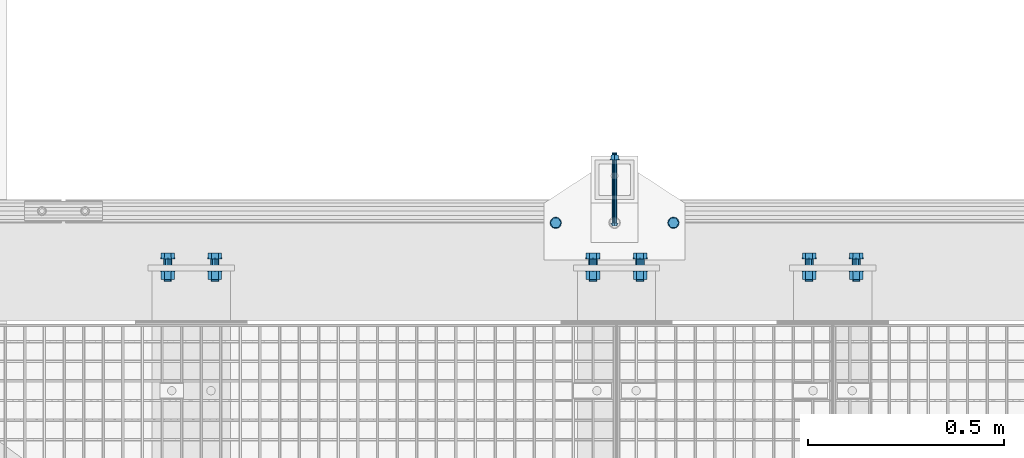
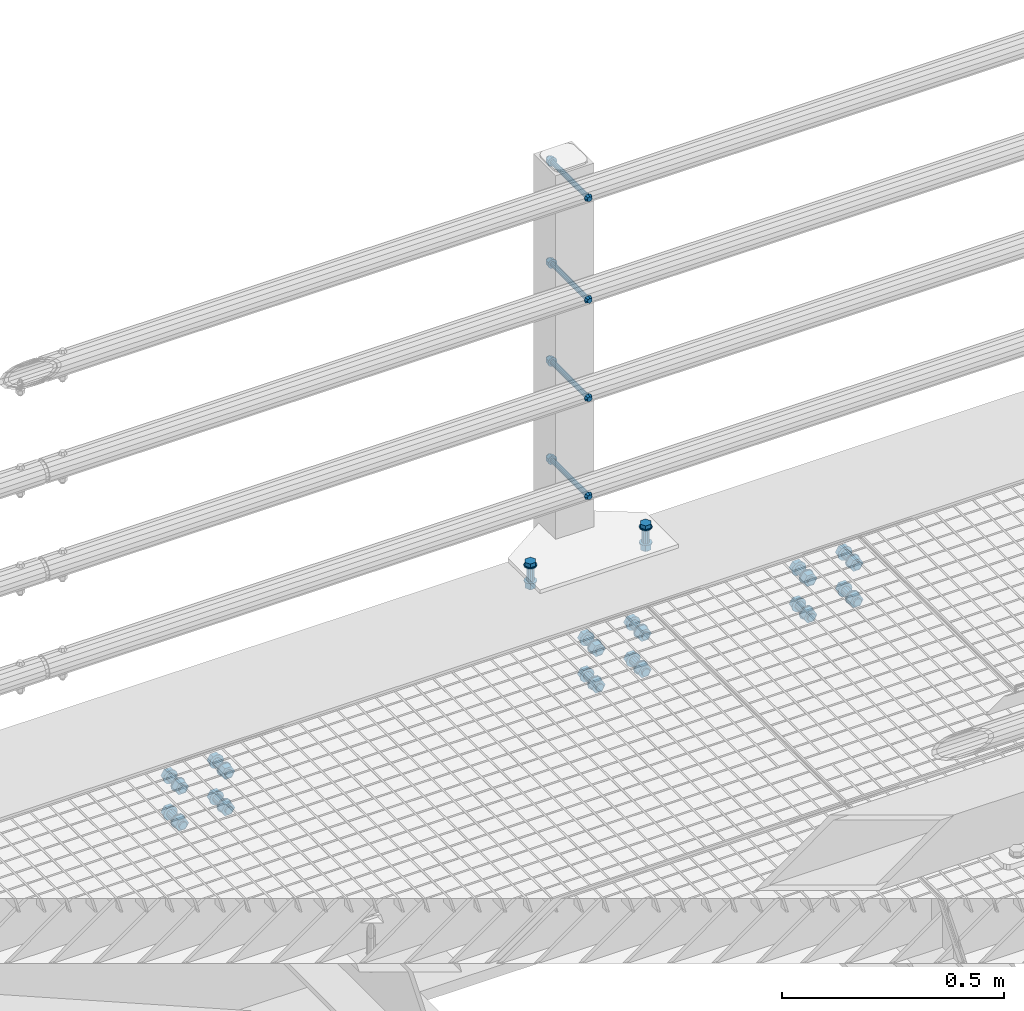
# One storey, part 37 of 1530: 8 mechanical fasteners.
"""IFC2X3 building model written with IfcOpenShell, lengths in millimetres."""

import ifcopenshell
import ifcopenshell.guid

model = None  # the IFC model being written
_history = None  # IfcOwnerHistory: only IFC2X3 demands one
_inside = {}  # id of a spatial element -> (the spatial element, [elements in it])
_under = {}  # id of a project, library or spatial element -> (it, [spatial elements below it])
_declared = {}  # id of a project -> (the project, [libraries it declares])
_typed = {}  # id of a type object -> (the type object, [elements of that type])
_made_of = {}  # id of a material, layer set ... -> (it, [elements and type objects made of it])


def new_model(schema):
    """Start an empty IFC model of exactly this schema.

    Asked for "IFC4X3", IfcOpenShell would pick the latest addendum, in which some entities
    have other attributes; the version numbers below select the first issue.
    IFC2X3 requires an IfcOwnerHistory on every rooted entity: one is made here for all.
    """
    global model, _history
    if schema == "IFC4X3":
        model = ifcopenshell.file(schema_version=(4, 3, 0, 0))
    else:
        model = ifcopenshell.file(schema=schema)
    _inside.clear()
    _under.clear()
    _declared.clear()
    _typed.clear()
    _made_of.clear()
    _history = None
    if model.schema == "IFC2X3":
        org = make("IfcOrganization", Name="unknown")
        user = make(
            "IfcPersonAndOrganization",
            ThePerson=make("IfcPerson", FamilyName="unknown"),
            TheOrganization=org,
        )
        app = make(
            "IfcApplication",
            ApplicationDeveloper=org,
            Version="unknown",
            ApplicationFullName="unknown",
            ApplicationIdentifier="unknown",
        )
        _history = make(
            "IfcOwnerHistory",
            OwningUser=user,
            OwningApplication=app,
            ChangeAction="ADDED",
            CreationDate=0,
        )
    return model


def make(cls, **values):
    """One entity of the class cls with the attributes given. An attribute that is None is left unset."""
    return model.create_entity(
        cls, **{name: value for name, value in values.items() if value is not None}
    )


def rooted(cls, **values):
    """An entity with a GlobalId (a new one), such as an element, a storey or a relation."""
    return make(cls, GlobalId=ifcopenshell.guid.new(), OwnerHistory=_history, **values)


def si_unit(unit_type, name, prefix=None):
    """IfcSIUnit, for example si_unit("LENGTHUNIT", "METRE", prefix="MILLI")."""
    return make("IfcSIUnit", UnitType=unit_type, Prefix=prefix, Name=name)


def assignment(units):
    """IfcUnitAssignment: the units of a project."""
    return None if units is None else make("IfcUnitAssignment", Units=units)


def point(xyz):
    """IfcCartesianPoint."""
    return None if xyz is None else make("IfcCartesianPoint", Coordinates=xyz)


def direction(xyz):
    """IfcDirection."""
    return None if xyz is None else make("IfcDirection", DirectionRatios=xyz)


def frame(location, z_axis=None, x_axis=None):
    """IfcAxis2Placement3D, a coordinate frame: its origin and axes. An axis left out is left unset."""
    return make(
        "IfcAxis2Placement3D",
        Location=point(location),
        Axis=direction(z_axis),
        RefDirection=direction(x_axis),
    )


def origin_with_axes():
    """The frame at (0, 0, 0) with the z axis (0, 0, 1) and the x axis (1, 0, 0) written out."""
    return frame((0.0, 0.0, 0.0), z_axis=(0.0, 0.0, 1.0), x_axis=(1.0, 0.0, 0.0))


def place(relative_to, where):
    """IfcLocalPlacement: puts the frame where relative to a parent placement (None: the world)."""
    return make(
        "IfcLocalPlacement", PlacementRelTo=relative_to, RelativePlacement=where
    )


def context(
    kind, dimensions, precision=None, world=None, true_north=None, identifier=None
):
    """IfcGeometricRepresentationContext, for example the 3D "Model" context."""
    return make(
        "IfcGeometricRepresentationContext",
        ContextIdentifier=identifier,
        ContextType=kind,
        CoordinateSpaceDimension=dimensions,
        Precision=precision,
        WorldCoordinateSystem=world,
        TrueNorth=true_north,
    )


def subcontext(parent, identifier, kind, view, scale=None):
    """IfcGeometricRepresentationSubContext, for example "Body" below "Model"."""
    return make(
        "IfcGeometricRepresentationSubContext",
        ContextIdentifier=identifier,
        ContextType=kind,
        ParentContext=parent,
        TargetScale=scale,
        TargetView=view,
    )


def project(units=None, contexts=None):
    """IfcProject with its units and contexts."""
    return rooted(
        "IfcProject",
        Name="project",
        RepresentationContexts=contexts,
        UnitsInContext=assignment(units),
    )


def spatial(cls, under=None, at=None, **own):
    """A site, building, storey or space (cls), placed at a placement, below another one or the project."""
    s = rooted(cls, ObjectPlacement=at, **own)
    if under is not None:
        _under.setdefault(under.id(), (under, []))[1].append(s)
    return s


def faces_of(points, faces, orient=None, outer=None):
    """IfcFace entities. A face is a list of loops; a loop is a list of indices into points, from 0.

    orient and outer hold one flag for each loop. By default every Orientation is true, the
    first loop of a face is its IfcFaceOuterBound and the others are IfcFaceBound.
    """
    made = []
    for i, loops in enumerate(faces):
        bounds = []
        for j, loop in enumerate(loops):
            is_outer = j == 0 if outer is None else outer[i][j]
            bounds.append(
                make(
                    "IfcFaceOuterBound" if is_outer else "IfcFaceBound",
                    Bound=make("IfcPolyLoop", Polygon=[points[k] for k in loop]),
                    Orientation=True if orient is None else orient[i][j],
                )
            )
        made.append(make("IfcFace", Bounds=bounds))
    return made


def faceted_brep(points, faces, orient=None, outer=None, voids=None):
    """IfcFacetedBrep: a solid bounded by flat faces; with voids (closed shells), ...WithVoids."""
    shared = [point(p) for p in points]
    hull = make("IfcClosedShell", CfsFaces=faces_of(shared, faces, orient, outer))
    if voids is None:
        return make("IfcFacetedBrep", Outer=hull)
    return make(
        "IfcFacetedBrepWithVoids",
        Outer=hull,
        Voids=[
            make(cls, CfsFaces=faces_of(shared, fs, o, b)) for cls, fs, o, b in voids
        ],
    )


def shape(context_of_items, identifier, shape_type, items):
    """IfcShapeRepresentation: the items that make up one representation, for example the "Body"."""
    return make(
        "IfcShapeRepresentation",
        ContextOfItems=context_of_items,
        RepresentationIdentifier=identifier,
        RepresentationType=shape_type,
        Items=items,
    )


def source(mapping_origin, context_of_items, identifier, shape_type, items):
    """IfcRepresentationMap: a shape defined once, which mapped items show again and again."""
    return make(
        "IfcRepresentationMap",
        MappingOrigin=mapping_origin,
        MappedRepresentation=shape(context_of_items, identifier, shape_type, items),
    )


def transform(
    local_origin,
    x_axis=None,
    y_axis=None,
    z_axis=None,
    scale=None,
    scale2=None,
    scale3=None,
    uniform=True,
):
    """IfcCartesianTransformationOperator3D, or its non-uniform kind. x_axis, y_axis, z_axis: its Axis1, 2, 3."""
    if uniform:
        return make(
            "IfcCartesianTransformationOperator3D",
            Axis1=direction(x_axis),
            Axis2=direction(y_axis),
            LocalOrigin=point(local_origin),
            Scale=scale,
            Axis3=direction(z_axis),
        )
    return make(
        "IfcCartesianTransformationOperator3DnonUniform",
        Axis1=direction(x_axis),
        Axis2=direction(y_axis),
        LocalOrigin=point(local_origin),
        Scale=scale,
        Axis3=direction(z_axis),
        Scale2=scale2,
        Scale3=scale3,
    )


def mapped(mapping_source, mapping_target):
    """IfcMappedItem: shows the shape of a source again, moved by a transform."""
    return make(
        "IfcMappedItem", MappingSource=mapping_source, MappingTarget=mapping_target
    )


def material(Name=None, Category=None):
    """IfcMaterial."""
    return make("IfcMaterial", Name=Name, Category=Category)


def made_of(thing, what):
    """Note that an element or type object is made of a material, layer set ...; save() writes the relation."""
    if what is not None:
        _made_of.setdefault(what.id(), (what, []))[1].append(thing)
    return thing


def type_object(cls, material=None, **own):
    """A type object (cls), such as IfcWallType, which elements share."""
    return made_of(rooted(cls, **own), material)


def element(
    cls,
    number,
    at=None,
    inside=None,
    cuts=None,
    type_object=None,
    material=None,
    context=None,
    identifier="Body",
    shape_type=None,
    held_by="IfcProductDefinitionShape",
    body=None,
    shapes=None,
    **own,
):
    """One element of the class cls, such as IfcWall. Its Tag is "e" and its number.

    at: its placement. inside: the storey or other place that contains it. cuts: it is an
    opening in that element (IfcRelVoidsElement). A single representation is given by context,
    identifier, shape_type and body (its items); several are given by shapes. held_by: the class
    of the entity that holds the representations. save() writes the other relations.
    """
    e = rooted(cls, Tag="e%d" % number, ObjectPlacement=at, **own)
    if body is not None:
        shapes = [shape(context, identifier, shape_type, body)]
    if shapes is not None:
        e.Representation = make(held_by, Representations=shapes)
    if inside is not None:
        _inside.setdefault(inside.id(), (inside, []))[1].append(e)
    if cuts is not None:
        rooted(
            "IfcRelVoidsElement", RelatingBuildingElement=cuts, RelatedOpeningElement=e
        )
    if type_object is not None:
        _typed.setdefault(type_object.id(), (type_object, []))[1].append(e)
    return made_of(e, material)


def aggregate(whole, parts):
    """IfcRelAggregates: a whole, such as a stair, and the parts it consists of."""
    return rooted("IfcRelAggregates", RelatingObject=whole, RelatedObjects=parts)


def save(model, path):
    """Write the relations noted so far, then the file.

    IfcRelAggregates (storeys below a building ...), IfcRelContainedInSpatialStructure (elements
    in a storey), IfcRelDefinesByType, IfcRelAssociatesMaterial and IfcRelDeclares: one each for
    every whole, place, type object, material and project.
    """
    for whole, parts in _under.values():
        aggregate(whole, parts)
    for where, things in _inside.values():
        rooted(
            "IfcRelContainedInSpatialStructure",
            RelatedElements=things,
            RelatingStructure=where,
        )
    for kind, things in _typed.values():
        rooted("IfcRelDefinesByType", RelatedObjects=things, RelatingType=kind)
    for what, things in _made_of.values():
        rooted("IfcRelAssociatesMaterial", RelatedObjects=things, RelatingMaterial=what)
    for by, libraries in _declared.values():
        rooted("IfcRelDeclares", RelatingContext=by, RelatedDefinitions=libraries)
    model.write(path)


model = new_model("IFC2X3")

# Units and contexts
model_context = context("Model", 3, precision=1e-05, world=origin_with_axes())
body_context = subcontext(model_context, "Body", "Model", "MODEL_VIEW")
ifc_project = project(units=[si_unit("LENGTHUNIT", "METRE", prefix="MILLI"), si_unit("AREAUNIT", "SQUARE_METRE"), si_unit("VOLUMEUNIT", "CUBIC_METRE"), si_unit("MASSUNIT", "GRAM", prefix="KILO"), si_unit("TIMEUNIT", "SECOND"), si_unit("PLANEANGLEUNIT", "RADIAN"), si_unit("SOLIDANGLEUNIT", "STERADIAN"), si_unit("THERMODYNAMICTEMPERATUREUNIT", "DEGREE_CELSIUS"), si_unit("LUMINOUSINTENSITYUNIT", "LUMEN")], contexts=[model_context])

# Site, building, storey
site_placement = place(None, origin_with_axes())
site = spatial("IfcSite", under=ifc_project, at=site_placement, Name="Brattvåg", CompositionType="ELEMENT")
building_placement = place(site_placement, origin_with_axes())
building = spatial("IfcBuilding", under=site, at=building_placement, Name="Undefined", CompositionType="ELEMENT")
storey_placement = place(building_placement, origin_with_axes())
storey = spatial("IfcBuildingStorey", under=building, at=storey_placement, Name="Undefined", CompositionType="ELEMENT", Elevation=0.0)

# Mechanical fasteners
ifc_material = material(Name="8")
mechanical_fastener_type = type_object("IfcMechanicalFastenerType", Name="Bolt assembly")
shared_shape_1 = source(origin_with_axes(), body_context, "Body", "Brep", [
    faceted_brep([(6.49435320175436, -7.49984019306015, 0.0), (4.59220118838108, -7.49984019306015, 4.59220118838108), (3.97664443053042e-16, -7.49984019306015, 6.49435320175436), (-4.59220118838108, -7.49984019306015, 4.59220118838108), (-6.49435320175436, -7.49984019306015, 7.95328886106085e-16), (-4.59220118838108, -7.49984019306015, -4.59220118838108), (-1.19299332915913e-15, -7.49984019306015, -6.49435320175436), (4.59220118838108, -7.49984019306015, -4.59220118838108), (7.34846922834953, 0.000159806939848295, -7.34846922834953), (-1.90903542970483e-15, 0.000159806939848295, -10.3923048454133), (-7.34846922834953, 0.000159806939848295, -7.34846922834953), (-10.3923048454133, 0.000159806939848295, 1.27269028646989e-15), (-7.34846922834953, 0.000159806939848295, 7.34846922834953), (6.36345143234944e-16, 0.000159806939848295, 10.3923048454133), (7.34846922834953, 0.000159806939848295, 7.34846922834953), (10.3923048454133, 0.000159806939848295, 0.0), (6.0, 0.000159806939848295, 0.0), (5.19615242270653, 0.000159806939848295, 3.00000000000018), (2.99999999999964, 0.000159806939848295, 5.19615242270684), (-6.21801588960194e-13, 0.000159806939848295, 6.0), (-3.00000000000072, 0.000159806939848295, 5.19615242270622), (-5.19615242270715, 0.000159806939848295, 2.9999999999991), (-6.0, 0.000159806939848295, -1.24360317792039e-12), (-5.19615242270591, 0.000159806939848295, -3.00000000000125), (-2.99999999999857, 0.000159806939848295, -5.19615242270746), (1.85874342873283e-12, 0.000159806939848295, -6.0), (3.00000000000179, 0.000159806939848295, -5.1961524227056), (5.19615242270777, 0.000159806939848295, -2.99999999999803), (5.19615242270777, 180.00015980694, -2.99999999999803), (3.00000000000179, 180.00015980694, -5.1961524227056), (1.85874342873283e-12, 180.00015980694, -6.0), (-2.99999999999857, 180.00015980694, -5.19615242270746), (-5.19615242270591, 180.00015980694, -3.00000000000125), (-6.0, 180.00015980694, -1.24360317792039e-12), (-5.19615242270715, 180.00015980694, 2.9999999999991), (-3.00000000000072, 180.00015980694, 5.19615242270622), (-6.21801588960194e-13, 180.00015980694, 6.0), (2.99999999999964, 180.00015980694, 5.19615242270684), (5.19615242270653, 180.00015980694, 3.00000000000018), (6.0, 180.00015980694, 0.0), (12.0, 160.299998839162, 0.0), (10.3923048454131, 160.299998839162, 6.00000000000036), (5.99999999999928, 160.299998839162, 10.3923048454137), (-1.24360317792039e-12, 160.299998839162, 12.0), (-6.00000000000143, 160.299998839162, 10.3923048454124), (-10.3923048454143, 160.299998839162, 5.99999999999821), (-12.0, 160.299998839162, -2.48720635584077e-12), (-10.3923048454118, 160.299998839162, -6.00000000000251), (-5.99999999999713, 160.299998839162, -10.3923048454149), (3.71748685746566e-12, 160.299998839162, -12.0), (6.00000000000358, 160.299998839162, -10.3923048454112), (10.3923048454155, 160.299998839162, -5.99999999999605), (10.3923048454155, 162.799998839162, -5.99999999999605), (6.00000000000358, 162.799998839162, -10.3923048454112), (3.71748685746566e-12, 162.799998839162, -12.0), (-5.99999999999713, 162.799998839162, -10.3923048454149), (-10.3923048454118, 162.799998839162, -6.00000000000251), (-12.0, 162.799998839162, -2.48720635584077e-12), (-10.3923048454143, 162.799998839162, 5.99999999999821), (-6.00000000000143, 162.799998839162, 10.3923048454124), (-1.24360317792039e-12, 162.799998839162, 12.0), (5.99999999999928, 162.799998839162, 10.3923048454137), (10.3923048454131, 162.799998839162, 6.00000000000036), (12.0, 162.799998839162, 0.0), (10.9696551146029, 162.799998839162, 0.0), (5.48482755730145, 162.799998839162, 9.5), (-5.48482755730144, 162.799998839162, 9.5), (-10.9696551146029, 162.799998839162, 1.34339530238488e-15), (-5.48482755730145, 162.799998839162, -9.5), (5.48482755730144, 162.799998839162, -9.5), (5.48482755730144, 173.599999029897, -9.5), (-5.48482755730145, 173.599999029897, -9.5), (-10.9696551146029, 173.599999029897, 1.34339530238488e-15), (-5.48482755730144, 173.599999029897, 9.5), (5.48482755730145, 173.599999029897, 9.5), (10.9696551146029, 173.599999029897, 0.0)], [[[0, 1, 2, 3, 4, 5, 6, 7]], [[8, 9, 10, 11, 12, 13, 14, 15]], [[0, 15, 14, 1]], [[1, 14, 13, 2]], [[2, 13, 12, 3]], [[3, 12, 11, 4]], [[4, 11, 10, 5]], [[5, 10, 9, 6]], [[6, 9, 8, 7]], [[7, 8, 15, 0]], [[16, 17, 18, 19, 20, 21, 22, 23, 24, 25, 26, 27]], [[28, 29, 30, 31, 32, 33, 34, 35, 36, 37, 38, 39]], [[16, 39, 38, 17]], [[17, 38, 37, 18]], [[18, 37, 36, 19]], [[19, 36, 35, 20]], [[20, 35, 34, 21]], [[21, 34, 33, 22]], [[22, 33, 32, 23]], [[23, 32, 31, 24]], [[24, 31, 30, 25]], [[25, 30, 29, 26]], [[26, 29, 28, 27]], [[27, 28, 39, 16]], [[40, 41, 42, 43, 44, 45, 46, 47, 48, 49, 50, 51]], [[52, 53, 54, 55, 56, 57, 58, 59, 60, 61, 62, 63]], [[40, 63, 62, 41]], [[41, 62, 61, 42]], [[42, 61, 60, 43]], [[43, 60, 59, 44]], [[44, 59, 58, 45]], [[45, 58, 57, 46]], [[46, 57, 56, 47]], [[47, 56, 55, 48]], [[48, 55, 54, 49]], [[49, 54, 53, 50]], [[50, 53, 52, 51]], [[51, 52, 63, 40]], [[64, 65, 66, 67, 68, 69]], [[70, 71, 72, 73, 74, 75]], [[64, 75, 74, 65]], [[65, 74, 73, 66]], [[66, 73, 72, 67]], [[67, 72, 71, 68]], [[68, 71, 70, 69]], [[69, 70, 75, 64]]]),
    faceted_brep([(6.5, 0.100159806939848, 0.0), (5.62916512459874, 0.100159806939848, 3.25000000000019), (3.24999999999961, 0.100159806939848, 5.62916512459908), (-6.7361838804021e-13, 0.100159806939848, 6.5), (-3.25000000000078, 0.100159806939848, 5.6291651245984), (-5.62916512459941, 0.100159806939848, 3.24999999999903), (-6.5, 0.100159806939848, -1.34723677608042e-12), (-5.62916512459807, 0.100159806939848, -3.25000000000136), (-3.24999999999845, 0.100159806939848, -5.62916512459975), (2.01363871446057e-12, 0.100159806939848, -6.5), (3.25000000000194, 0.100159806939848, -5.62916512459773), (5.62916512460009, 0.100159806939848, -3.24999999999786), (5.62916512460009, 60.4001552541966, -3.24999999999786), (3.25000000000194, 60.4001552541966, -5.62916512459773), (2.01363871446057e-12, 60.4001552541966, -6.5), (-3.24999999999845, 60.4001552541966, -5.62916512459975), (-5.62916512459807, 60.4001552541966, -3.25000000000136), (-6.5, 60.4001552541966, -1.34723677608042e-12), (-5.62916512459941, 60.4001552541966, 3.24999999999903), (-3.25000000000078, 60.4001552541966, 5.6291651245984), (-6.7361838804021e-13, 60.4001552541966, 6.5), (3.24999999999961, 60.4001552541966, 5.62916512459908), (5.62916512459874, 60.4001552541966, 3.25000000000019), (6.5, 60.4001552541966, 0.0), (6.5, 60.1999988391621, 0.0), (5.62916512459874, 60.1999988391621, 3.25000000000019), (3.24999999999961, 60.1999988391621, 5.62916512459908), (-6.7361838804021e-13, 60.1999988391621, 6.5), (-3.25000000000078, 60.1999988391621, 5.6291651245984), (-5.62916512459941, 60.1999988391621, 3.24999999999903), (-6.5, 60.1999988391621, -1.34723677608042e-12), (-5.62916512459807, 60.1999988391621, -3.25000000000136), (-3.24999999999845, 60.1999988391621, -5.62916512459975), (2.01363871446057e-12, 60.1999988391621, -6.5), (3.25000000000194, 60.1999988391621, -5.62916512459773), (5.62916512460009, 60.1999988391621, -3.24999999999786), (5.62916512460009, 160.299998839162, -3.24999999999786), (3.25000000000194, 160.299998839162, -5.62916512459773), (2.01363871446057e-12, 160.299998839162, -6.5), (-3.24999999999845, 160.299998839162, -5.62916512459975), (-5.62916512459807, 160.299998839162, -3.25000000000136), (-6.5, 160.299998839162, -1.34723677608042e-12), (-5.62916512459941, 160.299998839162, 3.24999999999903), (-3.25000000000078, 160.299998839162, 5.6291651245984), (-6.7361838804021e-13, 160.299998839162, 6.5), (3.24999999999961, 160.299998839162, 5.62916512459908), (5.62916512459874, 160.299998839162, 3.25000000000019), (6.5, 160.299998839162, 0.0)], [[[0, 1, 2, 3, 4, 5, 6, 7, 8, 9, 10, 11]], [[12, 13, 14, 15, 16, 17, 18, 19, 20, 21, 22, 23]], [[0, 23, 22, 1]], [[1, 22, 21, 2]], [[2, 21, 20, 3]], [[3, 20, 19, 4]], [[4, 19, 18, 5]], [[5, 18, 17, 6]], [[6, 17, 16, 7]], [[7, 16, 15, 8]], [[8, 15, 14, 9]], [[9, 14, 13, 10]], [[10, 13, 12, 11]], [[11, 12, 23, 0]], [[24, 25, 26, 27, 28, 29, 30, 31, 32, 33, 34, 35]], [[36, 37, 38, 39, 40, 41, 42, 43, 44, 45, 46, 47]], [[24, 47, 46, 25]], [[25, 46, 45, 26]], [[26, 45, 44, 27]], [[27, 44, 43, 28]], [[28, 43, 42, 29]], [[29, 42, 41, 30]], [[30, 41, 40, 31]], [[31, 40, 39, 32]], [[32, 39, 38, 33]], [[33, 38, 37, 34]], [[34, 37, 36, 35]], [[35, 36, 47, 24]]]),
])
for number, where, z_axis, x_axis, name in (
    (1, (2349.9999999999, 9099.69972268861, 149.550000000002), (1.0, 0.0, 0.0), (0.0, 0.0, -1.0), "Bolt assembly"),
    (2, (2349.9999999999, 9099.69972268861, 419.550000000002), (1.0, 0.0, 0.0), (0.0, 0.0, -1.0), "Bolt assembly"),
    (3, (2349.9999999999, 9099.69972268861, 689.550000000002), (1.0, 0.0, 0.0), (0.0, 0.0, -1.0), "Bolt assembly"),
    (4, (2349.9999999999, 9099.69972268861, 969.550000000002), (1.0, 0.0, 0.0), (0.0, 0.0, -1.0), "Bolt assembly"),
):
    element("IfcMechanicalFastener", number, at=place(storey_placement, frame(where, z_axis=z_axis, x_axis=x_axis)), inside=storey, type_object=mechanical_fastener_type, material=ifc_material, Name=name, NominalDiameter=12.0, NominalLength=180.0, context=body_context, shape_type="MappedRepresentation", body=[
        mapped(shared_shape_1, transform((0.0, 0.0, 0.0))),
    ])
shared_shape_2 = source(origin_with_axes(), body_context, "Body", "Brep", [
    faceted_brep([(13.856406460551, -13.0, 0.0), (6.92820323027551, -13.0, 12.0), (-6.92820323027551, -13.0, 12.0), (-13.856406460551, -13.0, 1.69692038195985e-15), (-6.92820323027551, -13.0, -12.0), (6.9282032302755, -13.0, -12.0), (6.9282032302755, -3.0, -12.0), (-6.92820323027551, -3.0, -12.0), (-13.856406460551, -3.0, 1.69692038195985e-15), (-6.92820323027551, -3.0, 12.0), (6.92820323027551, -3.0, 12.0), (13.856406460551, -3.0, 0.0), (8.0, -3.0, 0.0), (6.92820323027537, -3.0, 4.00000000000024), (3.99999999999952, -3.0, 6.92820323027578), (-8.29068785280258e-13, -3.0, 8.0), (-4.00000000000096, -3.0, 6.92820323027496), (-6.9282032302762, -3.0, 3.99999999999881), (-8.0, -3.0, -1.65813757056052e-12), (-6.92820323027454, -3.0, -4.00000000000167), (-3.99999999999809, -3.0, -6.92820323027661), (2.47832457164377e-12, -3.0, -8.0), (4.00000000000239, -3.0, -6.92820323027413), (6.92820323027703, -3.0, -3.99999999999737), (6.92820323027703, 62.0000000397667, -3.99999999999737), (4.00000000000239, 62.0000000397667, -6.92820323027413), (2.47832457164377e-12, 62.0000000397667, -8.0), (-3.99999999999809, 62.0000000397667, -6.92820323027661), (-6.92820323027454, 62.0000000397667, -4.00000000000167), (-8.0, 62.0000000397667, -1.65813757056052e-12), (-6.9282032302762, 62.0000000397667, 3.99999999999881), (-4.00000000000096, 62.0000000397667, 6.92820323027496), (-8.29068785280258e-13, 62.0000000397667, 8.0), (3.99999999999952, 62.0000000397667, 6.92820323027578), (6.92820323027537, 62.0000000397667, 4.00000000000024), (8.0, 62.0000000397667, 0.0), (15.0, -3.0, 0.0), (12.9903810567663, -3.0, 7.50000000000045), (7.4999999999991, -3.0, 12.9903810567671), (-1.55450397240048e-12, -3.0, 15.0), (-7.50000000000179, -3.0, 12.9903810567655), (-12.9903810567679, -3.0, 7.49999999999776), (-15.0, -3.0, -3.10900794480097e-12), (-12.9903810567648, -3.0, -7.50000000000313), (-7.49999999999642, -3.0, -12.9903810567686), (4.64685857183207e-12, -3.0, -15.0), (7.50000000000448, -3.0, -12.990381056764), (12.9903810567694, -3.0, -7.49999999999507), (12.9903810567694, 0.0, -7.49999999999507), (7.50000000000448, 0.0, -12.990381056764), (0.0, 0.0, -15.0), (-7.49999999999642, 0.0, -12.9903810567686), (-12.9903810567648, 0.0, -7.50000000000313), (-15.0, 0.0, -3.10900794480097e-12), (-12.9903810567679, 0.0, 7.49999999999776), (-7.50000000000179, 0.0, 12.9903810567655), (0.0, 0.0, 15.0), (7.4999999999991, 0.0, 12.9903810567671), (12.9903810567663, 0.0, 7.50000000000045), (15.0, 0.0, 0.0), (15.0, 39.9997390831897, 0.0), (12.9903810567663, 39.9997390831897, 7.50000000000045), (7.4999999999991, 39.9997390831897, 12.9903810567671), (-1.55450397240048e-12, 39.9997390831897, 15.0), (-7.50000000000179, 39.9997390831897, 12.9903810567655), (-12.9903810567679, 39.9997390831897, 7.49999999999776), (-15.0, 39.9997390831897, -3.10900794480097e-12), (-12.9903810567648, 39.9997390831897, -7.50000000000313), (-7.49999999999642, 39.9997390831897, -12.9903810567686), (4.64685857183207e-12, 39.9997390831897, -15.0), (7.50000000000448, 39.9997390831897, -12.990381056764), (12.9903810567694, 39.9997390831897, -7.49999999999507), (12.9903810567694, 42.9997390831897, -7.49999999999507), (7.50000000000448, 42.9997390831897, -12.990381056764), (4.64685857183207e-12, 42.9997390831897, -15.0), (-7.49999999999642, 42.9997390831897, -12.9903810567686), (-12.9903810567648, 42.9997390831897, -7.50000000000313), (-15.0, 42.9997390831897, -3.10900794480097e-12), (-12.9903810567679, 42.9997390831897, 7.49999999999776), (-7.50000000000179, 42.9997390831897, 12.9903810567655), (-1.55450397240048e-12, 42.9997390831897, 15.0), (7.4999999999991, 42.9997390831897, 12.9903810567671), (12.9903810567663, 42.9997390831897, 7.50000000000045), (15.0, 42.9997390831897, 0.0), (13.856406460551, 42.9997390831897, 0.0), (6.92820323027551, 42.9997390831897, 12.0), (-6.92820323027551, 42.9997390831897, 12.0), (-13.856406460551, 42.9997390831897, 1.69692038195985e-15), (-6.92820323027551, 42.9997390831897, -12.0), (6.9282032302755, 42.9997390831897, -12.0), (6.9282032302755, 57.7997392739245, -12.0), (-6.92820323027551, 57.7997392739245, -12.0), (-13.856406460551, 57.7997392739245, 1.69692038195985e-15), (-6.92820323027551, 57.7997392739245, 12.0), (6.92820323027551, 57.7997392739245, 12.0), (13.856406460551, 57.7997392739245, 0.0)], [[[0, 1, 2, 3, 4, 5]], [[6, 7, 8, 9, 10, 11]], [[0, 11, 10, 1]], [[1, 10, 9, 2]], [[2, 9, 8, 3]], [[3, 8, 7, 4]], [[4, 7, 6, 5]], [[5, 6, 11, 0]], [[12, 13, 14, 15, 16, 17, 18, 19, 20, 21, 22, 23]], [[24, 25, 26, 27, 28, 29, 30, 31, 32, 33, 34, 35]], [[12, 35, 34, 13]], [[13, 34, 33, 14]], [[14, 33, 32, 15]], [[15, 32, 31, 16]], [[16, 31, 30, 17]], [[17, 30, 29, 18]], [[18, 29, 28, 19]], [[19, 28, 27, 20]], [[20, 27, 26, 21]], [[21, 26, 25, 22]], [[22, 25, 24, 23]], [[23, 24, 35, 12]], [[36, 37, 38, 39, 40, 41, 42, 43, 44, 45, 46, 47]], [[48, 49, 50, 51, 52, 53, 54, 55, 56, 57, 58, 59]], [[36, 59, 58, 37]], [[37, 58, 57, 38]], [[38, 57, 56, 39]], [[39, 56, 55, 40]], [[40, 55, 54, 41]], [[41, 54, 53, 42]], [[42, 53, 52, 43]], [[43, 52, 51, 44]], [[44, 51, 50, 45]], [[45, 50, 49, 46]], [[46, 49, 48, 47]], [[47, 48, 59, 36]], [[60, 61, 62, 63, 64, 65, 66, 67, 68, 69, 70, 71]], [[72, 73, 74, 75, 76, 77, 78, 79, 80, 81, 82, 83]], [[60, 83, 82, 61]], [[61, 82, 81, 62]], [[62, 81, 80, 63]], [[63, 80, 79, 64]], [[64, 79, 78, 65]], [[65, 78, 77, 66]], [[66, 77, 76, 67]], [[67, 76, 75, 68]], [[68, 75, 74, 69]], [[69, 74, 73, 70]], [[70, 73, 72, 71]], [[71, 72, 83, 60]], [[84, 85, 86, 87, 88, 89]], [[90, 91, 92, 93, 94, 95]], [[84, 95, 94, 85]], [[85, 94, 93, 86]], [[86, 93, 92, 87]], [[87, 92, 91, 88]], [[88, 91, 90, 89]], [[89, 90, 95, 84]]]),
    faceted_brep([(9.0, 0.1, 0.0), (7.79422863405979, 0.1, 4.50000000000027), (4.49999999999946, 0.1, 7.79422863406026), (-9.3270238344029e-13, 0.1, 9.0), (-4.50000000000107, 0.1, 7.79422863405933), (-7.79422863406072, 0.1, 4.49999999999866), (-9.0, 0.1, -1.86540476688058e-12), (-7.79422863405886, 0.1, -4.50000000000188), (-4.49999999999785, 0.1, -7.79422863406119), (2.78811514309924e-12, 0.1, -9.0), (4.50000000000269, 0.1, -7.7942286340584), (7.79422863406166, 0.1, -4.49999999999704), (7.79422863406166, 10.1, -4.49999999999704), (4.50000000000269, 10.1, -7.7942286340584), (2.78811514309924e-12, 10.1, -9.0), (-4.49999999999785, 10.1, -7.79422863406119), (-7.79422863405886, 10.1, -4.50000000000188), (-9.0, 10.1, -1.86540476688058e-12), (-7.79422863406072, 10.1, 4.49999999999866), (-4.50000000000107, 10.1, 7.79422863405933), (-9.3270238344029e-13, 10.1, 9.0), (4.49999999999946, 10.1, 7.79422863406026), (7.79422863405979, 10.1, 4.50000000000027), (9.0, 10.1, 0.0), (9.0, 9.8997390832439, 0.0), (7.79422863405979, 9.8997390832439, 4.50000000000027), (4.49999999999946, 9.8997390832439, 7.79422863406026), (-9.3270238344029e-13, 9.8997390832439, 9.0), (-4.50000000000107, 9.8997390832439, 7.79422863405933), (-7.79422863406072, 9.8997390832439, 4.49999999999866), (-9.0, 9.8997390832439, -1.86540476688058e-12), (-7.79422863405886, 9.8997390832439, -4.50000000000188), (-4.49999999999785, 9.8997390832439, -7.79422863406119), (2.78811514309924e-12, 9.8997390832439, -9.0), (4.50000000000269, 9.8997390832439, -7.7942286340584), (7.79422863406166, 9.8997390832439, -4.49999999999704), (7.79422863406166, 39.9997390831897, -4.49999999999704), (4.50000000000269, 39.9997390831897, -7.7942286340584), (2.78811514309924e-12, 39.9997390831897, -9.0), (-4.49999999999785, 39.9997390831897, -7.79422863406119), (-7.79422863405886, 39.9997390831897, -4.50000000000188), (-9.0, 39.9997390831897, -1.86540476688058e-12), (-7.79422863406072, 39.9997390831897, 4.49999999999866), (-4.50000000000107, 39.9997390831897, 7.79422863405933), (-9.3270238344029e-13, 39.9997390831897, 9.0), (4.49999999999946, 39.9997390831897, 7.79422863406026), (7.79422863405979, 39.9997390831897, 4.50000000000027), (9.0, 39.9997390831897, 0.0)], [[[0, 1, 2, 3, 4, 5, 6, 7, 8, 9, 10, 11]], [[12, 13, 14, 15, 16, 17, 18, 19, 20, 21, 22, 23]], [[0, 23, 22, 1]], [[1, 22, 21, 2]], [[2, 21, 20, 3]], [[3, 20, 19, 4]], [[4, 19, 18, 5]], [[5, 18, 17, 6]], [[6, 17, 16, 7]], [[7, 16, 15, 8]], [[8, 15, 14, 9]], [[9, 14, 13, 10]], [[10, 13, 12, 11]], [[11, 12, 23, 0]], [[24, 25, 26, 27, 28, 29, 30, 31, 32, 33, 34, 35]], [[36, 37, 38, 39, 40, 41, 42, 43, 44, 45, 46, 47]], [[24, 47, 46, 25]], [[25, 46, 45, 26]], [[26, 45, 44, 27]], [[27, 44, 43, 28]], [[28, 43, 42, 29]], [[29, 42, 41, 30]], [[30, 41, 40, 31]], [[31, 40, 39, 32]], [[32, 39, 38, 33]], [[33, 38, 37, 34]], [[34, 37, 36, 35]], [[35, 36, 47, 24]]]),
])
mechanical_fastener_placement = place(storey_placement, frame((2200.00080864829, 9099.99960715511, 9.99973908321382), z_axis=(0.0, 1.0, 0.0), x_axis=(1.0, 0.0, 0.0)))
element("IfcMechanicalFastener", 5, at=mechanical_fastener_placement, inside=storey, type_object=mechanical_fastener_type, material=ifc_material, Name="Bolt assembly", NominalDiameter=16.0, NominalLength=65.0, context=body_context, shape_type="MappedRepresentation", body=[
    mapped(shared_shape_2, transform((0.0, 0.0, 0.0))),
    mapped(shared_shape_2, transform((300.0, 0.0, 0.0))),
])
shared_shape_3 = source(origin_with_axes(), body_context, "Body", "Brep", [
    faceted_brep([(17.3205080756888, -31.4985046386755, 0.0), (8.66025403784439, -31.4985046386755, 15.0), (-8.66025403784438, -31.4985046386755, 15.0), (-17.3205080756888, -31.4985046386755, 2.12115047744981e-15), (-8.66025403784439, -31.4985046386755, -15.0), (8.66025403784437, -31.4985046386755, -15.0), (8.66025403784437, -18.9985046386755, -15.0), (-8.66025403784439, -18.9985046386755, -15.0), (-17.3205080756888, -18.9985046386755, 2.12115047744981e-15), (-8.66025403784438, -18.9985046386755, 15.0), (8.66025403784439, -18.9985046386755, 15.0), (17.3205080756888, -18.9985046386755, 0.0), (10.0, -18.9985046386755, 0.0), (8.66025403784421, -18.9985046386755, 5.0000000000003), (4.9999999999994, -18.9985046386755, 8.66025403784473), (-1.03633598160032e-12, -18.9985046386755, 10.0), (-5.00000000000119, -18.9985046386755, 8.6602540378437), (-8.66025403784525, -18.9985046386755, 4.99999999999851), (-10.0, -18.9985046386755, -2.07267196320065e-12), (-8.66025403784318, -18.9985046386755, -5.00000000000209), (-4.99999999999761, -18.9985046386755, -8.66025403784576), (3.09790571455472e-12, -18.9985046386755, -10.0), (5.00000000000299, -18.9985046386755, -8.66025403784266), (8.66025403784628, -18.9985046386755, -4.99999999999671), (8.66025403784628, 41.0014953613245, -4.99999999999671), (5.00000000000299, 41.0014953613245, -8.66025403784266), (3.09790571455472e-12, 41.0014953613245, -10.0), (-4.99999999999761, 41.0014953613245, -8.66025403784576), (-8.66025403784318, 41.0014953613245, -5.00000000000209), (-10.0, 41.0014953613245, -2.07267196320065e-12), (-8.66025403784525, 41.0014953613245, 4.99999999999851), (-5.00000000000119, 41.0014953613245, 8.6602540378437), (-1.03633598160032e-12, 41.0014953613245, 10.0), (4.9999999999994, 41.0014953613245, 8.66025403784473), (8.66025403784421, 41.0014953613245, 5.0000000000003), (10.0, 41.0014953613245, 0.0), (18.5, -18.9985046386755, 0.0), (16.0214699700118, -18.9985046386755, 9.25000000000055), (9.2499999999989, -18.9985046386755, 16.0214699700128), (-1.9172215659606e-12, -18.9985046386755, 18.5), (-9.25000000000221, -18.9985046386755, 16.0214699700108), (-16.0214699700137, -18.9985046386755, 9.24999999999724), (-18.5, -18.9985046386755, -3.83444313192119e-12), (-16.0214699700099, -18.9985046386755, -9.25000000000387), (-9.24999999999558, -18.9985046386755, -16.0214699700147), (5.73112557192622e-12, -18.9985046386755, -18.5), (9.25000000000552, -18.9985046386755, -16.0214699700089), (16.0214699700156, -18.9985046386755, -9.24999999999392), (16.0214699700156, -15.9985046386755, -9.24999999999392), (9.25000000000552, -15.9985046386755, -16.0214699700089), (5.73112557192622e-12, -15.9985046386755, -18.5), (-9.24999999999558, -15.9985046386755, -16.0214699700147), (-16.0214699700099, -15.9985046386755, -9.25000000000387), (-18.5, -15.9985046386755, -3.83444313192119e-12), (-16.0214699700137, -15.9985046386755, 9.24999999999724), (-9.25000000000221, -15.9985046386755, 16.0214699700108), (-1.9172215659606e-12, -15.9985046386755, 18.5), (9.2499999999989, -15.9985046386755, 16.0214699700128), (16.0214699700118, -15.9985046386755, 9.25000000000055), (18.5, -15.9985046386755, 0.0), (18.5, 15.0000000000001, 0.0), (16.0214699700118, 15.0000000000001, 9.25000000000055), (9.2499999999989, 15.0000000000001, 16.0214699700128), (-1.9172215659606e-12, 15.0000000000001, 18.5), (-9.25000000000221, 15.0000000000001, 16.0214699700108), (-16.0214699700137, 15.0000000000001, 9.24999999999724), (-18.5, 15.0000000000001, -3.83444313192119e-12), (-16.0214699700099, 15.0000000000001, -9.25000000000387), (-9.24999999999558, 15.0000000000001, -16.0214699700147), (5.73112557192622e-12, 15.0000000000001, -18.5), (9.25000000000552, 15.0000000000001, -16.0214699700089), (16.0214699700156, 15.0000000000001, -9.24999999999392), (16.0214699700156, 18.0000000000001, -9.24999999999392), (9.25000000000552, 18.0000000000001, -16.0214699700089), (5.73112557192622e-12, 18.0000000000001, -18.5), (-9.24999999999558, 18.0000000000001, -16.0214699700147), (-16.0214699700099, 18.0000000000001, -9.25000000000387), (-18.5, 18.0000000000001, -3.83444313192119e-12), (-16.0214699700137, 18.0000000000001, 9.24999999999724), (-9.25000000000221, 18.0000000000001, 16.0214699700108), (-1.9172215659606e-12, 18.0000000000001, 18.5), (9.2499999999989, 18.0000000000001, 16.0214699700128), (16.0214699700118, 18.0000000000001, 9.25000000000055), (18.5, 18.0000000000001, 0.0), (17.3205080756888, 18.0000000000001, 0.0), (8.66025403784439, 18.0000000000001, 15.0), (-8.66025403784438, 18.0000000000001, 15.0), (-17.3205080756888, 18.0000000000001, 2.12115047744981e-15), (-8.66025403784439, 18.0000000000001, -15.0), (8.66025403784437, 18.0000000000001, -15.0), (8.66025403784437, 36.0000000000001, -15.0), (-8.66025403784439, 36.0000000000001, -15.0), (-17.3205080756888, 36.0000000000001, 2.12115047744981e-15), (-8.66025403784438, 36.0000000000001, 15.0), (8.66025403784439, 36.0000000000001, 15.0), (17.3205080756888, 36.0000000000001, 0.0)], [[[0, 1, 2, 3, 4, 5]], [[6, 7, 8, 9, 10, 11]], [[0, 11, 10, 1]], [[1, 10, 9, 2]], [[2, 9, 8, 3]], [[3, 8, 7, 4]], [[4, 7, 6, 5]], [[5, 6, 11, 0]], [[12, 13, 14, 15, 16, 17, 18, 19, 20, 21, 22, 23]], [[24, 25, 26, 27, 28, 29, 30, 31, 32, 33, 34, 35]], [[12, 35, 34, 13]], [[13, 34, 33, 14]], [[14, 33, 32, 15]], [[15, 32, 31, 16]], [[16, 31, 30, 17]], [[17, 30, 29, 18]], [[18, 29, 28, 19]], [[19, 28, 27, 20]], [[20, 27, 26, 21]], [[21, 26, 25, 22]], [[22, 25, 24, 23]], [[23, 24, 35, 12]], [[36, 37, 38, 39, 40, 41, 42, 43, 44, 45, 46, 47]], [[48, 49, 50, 51, 52, 53, 54, 55, 56, 57, 58, 59]], [[36, 59, 58, 37]], [[37, 58, 57, 38]], [[38, 57, 56, 39]], [[39, 56, 55, 40]], [[40, 55, 54, 41]], [[41, 54, 53, 42]], [[42, 53, 52, 43]], [[43, 52, 51, 44]], [[44, 51, 50, 45]], [[45, 50, 49, 46]], [[46, 49, 48, 47]], [[47, 48, 59, 36]], [[60, 61, 62, 63, 64, 65, 66, 67, 68, 69, 70, 71]], [[72, 73, 74, 75, 76, 77, 78, 79, 80, 81, 82, 83]], [[60, 83, 82, 61]], [[61, 82, 81, 62]], [[62, 81, 80, 63]], [[63, 80, 79, 64]], [[64, 79, 78, 65]], [[65, 78, 77, 66]], [[66, 77, 76, 67]], [[67, 76, 75, 68]], [[68, 75, 74, 69]], [[69, 74, 73, 70]], [[70, 73, 72, 71]], [[71, 72, 83, 60]], [[84, 85, 86, 87, 88, 89]], [[90, 91, 92, 93, 94, 95]], [[84, 95, 94, 85]], [[85, 94, 93, 86]], [[86, 93, 92, 87]], [[87, 92, 91, 88]], [[88, 91, 90, 89]], [[89, 90, 95, 84]]]),
    faceted_brep([(11.0, -15.8985046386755, 0.0), (9.52627944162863, -15.8985046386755, 5.50000000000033), (5.49999999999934, -15.8985046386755, 9.5262794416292), (-1.13996957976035e-12, -15.8985046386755, 11.0), (-5.50000000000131, -15.8985046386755, 9.52627944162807), (-9.52627944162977, -15.8985046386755, 5.49999999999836), (-11.0, -15.8985046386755, -2.27993915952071e-12), (-9.5262794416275, -15.8985046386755, -5.5000000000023), (-5.49999999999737, -15.8985046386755, -9.52627944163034), (3.40769628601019e-12, -15.8985046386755, -11.0), (5.50000000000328, -15.8985046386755, -9.52627944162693), (9.52627944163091, -15.8985046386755, -5.49999999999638), (9.52627944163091, 0.101495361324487, -5.49999999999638), (5.50000000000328, 0.101495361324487, -9.52627944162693), (3.40769628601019e-12, 0.101495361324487, -11.0), (-5.49999999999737, 0.101495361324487, -9.52627944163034), (-9.5262794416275, 0.101495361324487, -5.5000000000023), (-11.0, 0.101495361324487, -2.27993915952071e-12), (-9.52627944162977, 0.101495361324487, 5.49999999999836), (-5.50000000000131, 0.101495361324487, 9.52627944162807), (-1.13996957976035e-12, 0.101495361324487, 11.0), (5.49999999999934, 0.101495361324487, 9.5262794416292), (9.52627944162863, 0.101495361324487, 5.50000000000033), (11.0, 0.101495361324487, 0.0), (11.0, -0.1, 0.0), (9.52627944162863, -0.1, 5.50000000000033), (5.49999999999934, -0.1, 9.5262794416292), (-1.13996957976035e-12, -0.1, 11.0), (-5.50000000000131, -0.1, 9.52627944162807), (-9.52627944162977, -0.1, 5.49999999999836), (-11.0, -0.1, -2.27993915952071e-12), (-9.5262794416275, -0.1, -5.5000000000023), (-5.49999999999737, -0.1, -9.52627944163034), (3.40769628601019e-12, -0.1, -11.0), (5.50000000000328, -0.1, -9.52627944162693), (9.52627944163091, -0.1, -5.49999999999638), (9.52627944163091, 15.0000000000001, -5.49999999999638), (5.50000000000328, 15.0000000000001, -9.52627944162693), (3.40769628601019e-12, 15.0000000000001, -11.0), (-5.49999999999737, 15.0000000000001, -9.52627944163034), (-9.5262794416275, 15.0000000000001, -5.5000000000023), (-11.0, 15.0000000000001, -2.27993915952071e-12), (-9.52627944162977, 15.0000000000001, 5.49999999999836), (-5.50000000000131, 15.0000000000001, 9.52627944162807), (-1.13996957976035e-12, 15.0000000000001, 11.0), (5.49999999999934, 15.0000000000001, 9.5262794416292), (9.52627944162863, 15.0000000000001, 5.50000000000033), (11.0, 15.0000000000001, 0.0)], [[[0, 1, 2, 3, 4, 5, 6, 7, 8, 9, 10, 11]], [[12, 13, 14, 15, 16, 17, 18, 19, 20, 21, 22, 23]], [[0, 23, 22, 1]], [[1, 22, 21, 2]], [[2, 21, 20, 3]], [[3, 20, 19, 4]], [[4, 19, 18, 5]], [[5, 18, 17, 6]], [[6, 17, 16, 7]], [[7, 16, 15, 8]], [[8, 15, 14, 9]], [[9, 14, 13, 10]], [[10, 13, 12, 11]], [[11, 12, 23, 0]], [[24, 25, 26, 27, 28, 29, 30, 31, 32, 33, 34, 35]], [[36, 37, 38, 39, 40, 41, 42, 43, 44, 45, 46, 47]], [[24, 47, 46, 25]], [[25, 46, 45, 26]], [[26, 45, 44, 27]], [[27, 44, 43, 28]], [[28, 43, 42, 29]], [[29, 42, 41, 30]], [[30, 41, 40, 31]], [[31, 40, 39, 32]], [[32, 39, 38, 33]], [[33, 38, 37, 34]], [[34, 37, 36, 35]], [[35, 36, 47, 24]]]),
])
for number, where, z_axis, x_axis, name in (
    (6, (1331.00196838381, 8992.00149536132, -219.998836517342), (0.0, 0.0, 1.0), (-1.0, 1.99999855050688e-09, 0.0), "Bolt assembly"),
    (7, (2415.00196838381, 8992.00149536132, -219.998836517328), (0.0, 0.0, 1.0), (-1.0, 1.99999855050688e-09, 0.0), "Bolt assembly"),
    (8, (2966.00196838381, 8992.00149536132, -219.998836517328), (0.0, 0.0, 1.0), (-1.0, 1.99999855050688e-09, 0.0), "Bolt assembly"),
):
    element("IfcMechanicalFastener", number, at=place(storey_placement, frame(where, z_axis=z_axis, x_axis=x_axis)), inside=storey, type_object=mechanical_fastener_type, material=ifc_material, Name=name, NominalDiameter=20.0, NominalLength=60.0, context=body_context, shape_type="MappedRepresentation", body=[
        mapped(shared_shape_3, transform((0.0, 0.0, -50.0))),
        mapped(shared_shape_3, transform((120.0, 0.0, -50.0))),
        mapped(shared_shape_3, transform((0.0, 0.0, 50.0))),
        mapped(shared_shape_3, transform((120.0, 0.0, 50.0))),
    ])

save(model, "model.ifc")
